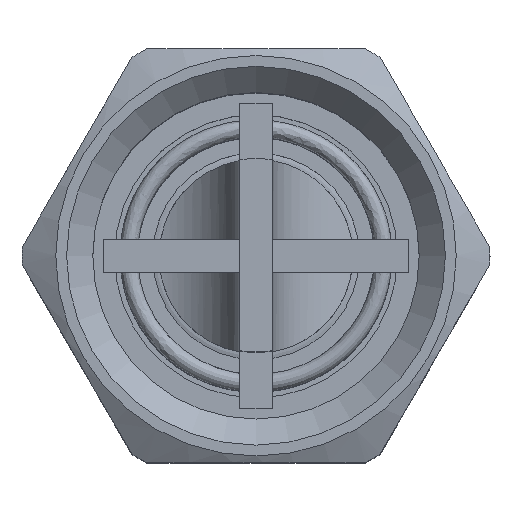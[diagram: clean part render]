
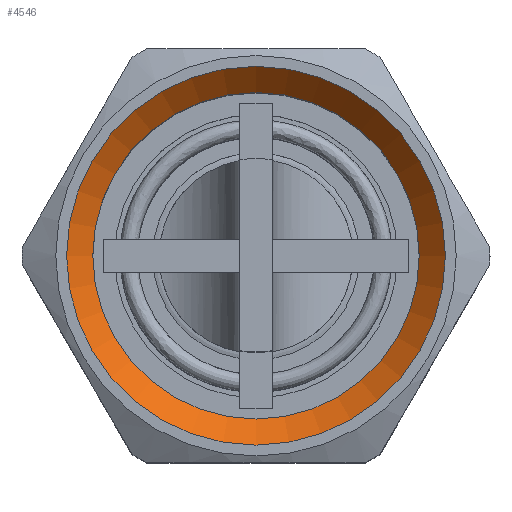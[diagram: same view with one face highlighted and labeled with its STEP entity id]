
A CAD part, top view. The second image highlights one B-rep face of the part: STEP entity #4546.
In plain terms, the highlighted conical face has half-angle 45 degrees and reference radius 8.7 mm.
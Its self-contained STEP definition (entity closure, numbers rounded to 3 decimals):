
#4353=CARTESIAN_POINT('',(8.7,-0.,15.5));
#4354=VERTEX_POINT('',#4353);
#4355=CARTESIAN_POINT('',(-0.,0.,15.5));
#4356=DIRECTION('',(-0.,0.,1.));
#4357=DIRECTION('',(1.,0.,0.));
#4358=AXIS2_PLACEMENT_3D('',#4355,#4356,#4357);
#4359=CIRCLE('',#4358,8.7);
#4360=EDGE_CURVE('',#4354,#4354,#4359,.T.);
#4513=CARTESIAN_POINT('',(-0.,0.,15.5));
#4514=DIRECTION('',(-0.,0.,1.));
#4515=DIRECTION('',(1.,0.,0.));
#4516=AXIS2_PLACEMENT_3D('',#4513,#4514,#4515);
#4517=CONICAL_SURFACE('',#4516,8.7,45.);
#4518=CARTESIAN_POINT('',(7.5,0.,14.3));
#4519=VERTEX_POINT('',#4518);
#4520=CARTESIAN_POINT('',(8.7,0.,15.5));
#4521=DIRECTION('',(-0.707,-0.,-0.707));
#4522=VECTOR('',#4521,1.697);
#4523=LINE('',#4520,#4522);
#4524=EDGE_CURVE('',#4354,#4519,#4523,.T.);
#4525=ORIENTED_EDGE('',*,*,#4524,.F.);
#4526=ORIENTED_EDGE('',*,*,#4360,.T.);
#4527=ORIENTED_EDGE('',*,*,#4524,.T.);
#4528=CARTESIAN_POINT('',(-7.5,-0.,14.3));
#4529=VERTEX_POINT('',#4528);
#4530=CARTESIAN_POINT('',(-0.,0.,14.3));
#4531=DIRECTION('',(0.,0.,-1.));
#4532=DIRECTION('',(-1.,0.,-0.));
#4533=AXIS2_PLACEMENT_3D('',#4530,#4531,#4532);
#4534=CIRCLE('',#4533,7.5);
#4535=EDGE_CURVE('',#4519,#4529,#4534,.T.);
#4536=ORIENTED_EDGE('',*,*,#4535,.T.);
#4537=CARTESIAN_POINT('',(-0.,0.,14.3));
#4538=DIRECTION('',(0.,0.,-1.));
#4539=DIRECTION('',(-1.,0.,-0.));
#4540=AXIS2_PLACEMENT_3D('',#4537,#4538,#4539);
#4541=CIRCLE('',#4540,7.5);
#4542=EDGE_CURVE('',#4529,#4519,#4541,.T.);
#4543=ORIENTED_EDGE('',*,*,#4542,.T.);
#4544=EDGE_LOOP('',(#4525,#4526,#4527,#4536,#4543));
#4545=FACE_BOUND('',#4544,.T.);
#4546=ADVANCED_FACE('',(#4545),#4517,.F.);
